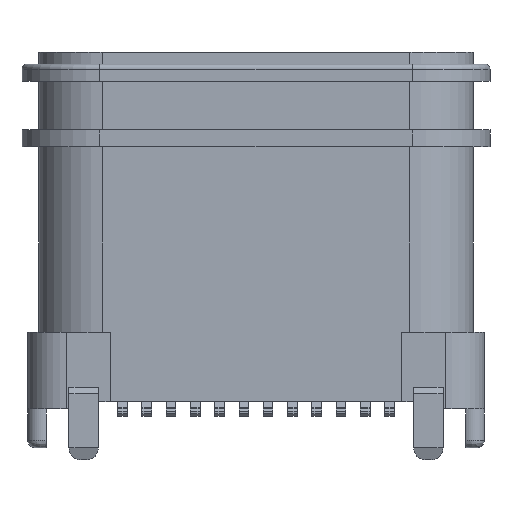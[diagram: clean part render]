
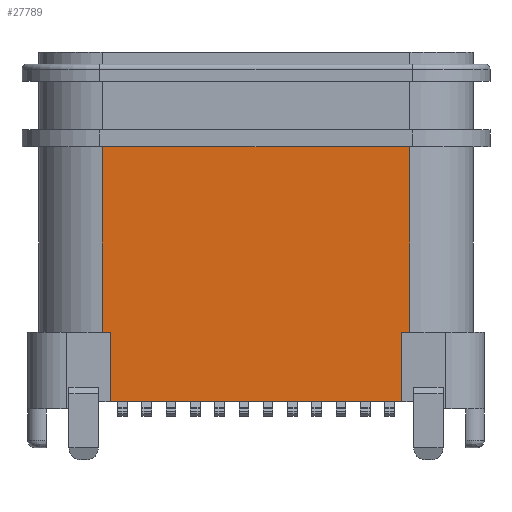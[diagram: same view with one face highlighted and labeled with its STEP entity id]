
A CAD part, front view. The second image highlights one B-rep face of the part: STEP entity #27789.
In plain terms, the highlighted planar face has unit normal (0, -1, 0).
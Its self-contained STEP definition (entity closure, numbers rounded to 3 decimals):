
#8689=DIRECTION('',(1.,0.,0.));
#8690=VECTOR('',#8689,6.);
#8691=CARTESIAN_POINT('',(-3.,-1.58,-1.93));
#8692=LINE('',#8691,#8690);
#8725=DIRECTION('',(-1.,0.,0.));
#8726=VECTOR('',#8725,0.17);
#8727=CARTESIAN_POINT('',(3.17,-1.58,-0.5));
#8728=LINE('',#8727,#8726);
#8729=DIRECTION('',(0.,0.,1.));
#8730=VECTOR('',#8729,1.43);
#8731=CARTESIAN_POINT('',(3.,-1.58,-1.93));
#8732=LINE('',#8731,#8730);
#8733=DIRECTION('',(0.,0.,-1.));
#8734=VECTOR('',#8733,1.43);
#8735=CARTESIAN_POINT('',(-3.,-1.58,-0.5));
#8736=LINE('',#8735,#8734);
#8737=DIRECTION('',(-1.,0.,0.));
#8738=VECTOR('',#8737,0.17);
#8739=CARTESIAN_POINT('',(-3.,-1.58,-0.5));
#8740=LINE('',#8739,#8738);
#8741=DIRECTION('',(1.,0.,0.));
#8742=VECTOR('',#8741,6.34);
#8743=CARTESIAN_POINT('',(-3.17,-1.58,3.32));
#8744=LINE('',#8743,#8742);
#10354=DIRECTION('',(0.,0.,1.));
#10355=VECTOR('',#10354,3.82);
#10356=CARTESIAN_POINT('',(3.17,-1.58,-0.5));
#10357=LINE('',#10356,#10355);
#10410=DIRECTION('',(0.,0.,-1.));
#10411=VECTOR('',#10410,3.82);
#10412=CARTESIAN_POINT('',(-3.17,-1.58,3.32));
#10413=LINE('',#10412,#10411);
#13795=CARTESIAN_POINT('',(3.17,-1.58,-0.5));
#13797=VERTEX_POINT('',#13795);
#13809=CARTESIAN_POINT('',(-3.17,-1.58,-0.5));
#13810=VERTEX_POINT('',#13809);
#14277=CARTESIAN_POINT('',(3.17,-1.58,3.32));
#14278=VERTEX_POINT('',#14277);
#14279=CARTESIAN_POINT('',(-3.17,-1.58,3.32));
#14280=VERTEX_POINT('',#14279);
#14554=CARTESIAN_POINT('',(3.,-1.58,-0.5));
#14556=VERTEX_POINT('',#14554);
#14558=CARTESIAN_POINT('',(-3.,-1.58,-0.5));
#14560=VERTEX_POINT('',#14558);
#14565=CARTESIAN_POINT('',(-3.,-1.58,-1.93));
#14566=CARTESIAN_POINT('',(3.,-1.58,-1.93));
#14567=VERTEX_POINT('',#14565);
#14568=VERTEX_POINT('',#14566);
#27769=CARTESIAN_POINT('',(-3.17,-1.58,5.17));
#27770=DIRECTION('',(0.,-1.,0.));
#27771=DIRECTION('',(1.,0.,0.));
#27772=AXIS2_PLACEMENT_3D('',#27769,#27770,#27771);
#27773=PLANE('',#27772);
#27774=ORIENTED_EDGE('',*,*,#16218,.T.);
#27776=ORIENTED_EDGE('',*,*,#27775,.F.);
#27777=ORIENTED_EDGE('',*,*,#27744,.F.);
#27779=ORIENTED_EDGE('',*,*,#27778,.F.);
#27780=ORIENTED_EDGE('',*,*,#16246,.T.);
#27782=ORIENTED_EDGE('',*,*,#27781,.F.);
#27784=ORIENTED_EDGE('',*,*,#27783,.T.);
#27786=ORIENTED_EDGE('',*,*,#27785,.F.);
#27787=EDGE_LOOP('',(#27774,#27776,#27777,#27779,#27780,#27782,#27784,#27786));
#27788=FACE_OUTER_BOUND('',#27787,.F.);
#27789=ADVANCED_FACE('',(#27788),#27773,.T.);
#16218=EDGE_CURVE('',#13797,#14556,#8728,.T.);
#16246=EDGE_CURVE('',#14560,#13810,#8740,.T.);
#27744=EDGE_CURVE('',#14567,#14568,#8692,.T.);
#27775=EDGE_CURVE('',#14568,#14556,#8732,.T.);
#27778=EDGE_CURVE('',#14560,#14567,#8736,.T.);
#27781=EDGE_CURVE('',#14280,#13810,#10413,.T.);
#27783=EDGE_CURVE('',#14280,#14278,#8744,.T.);
#27785=EDGE_CURVE('',#13797,#14278,#10357,.T.);
